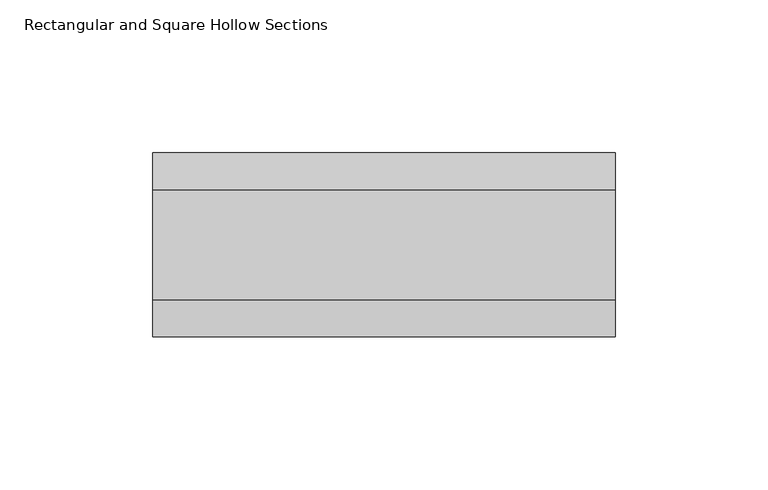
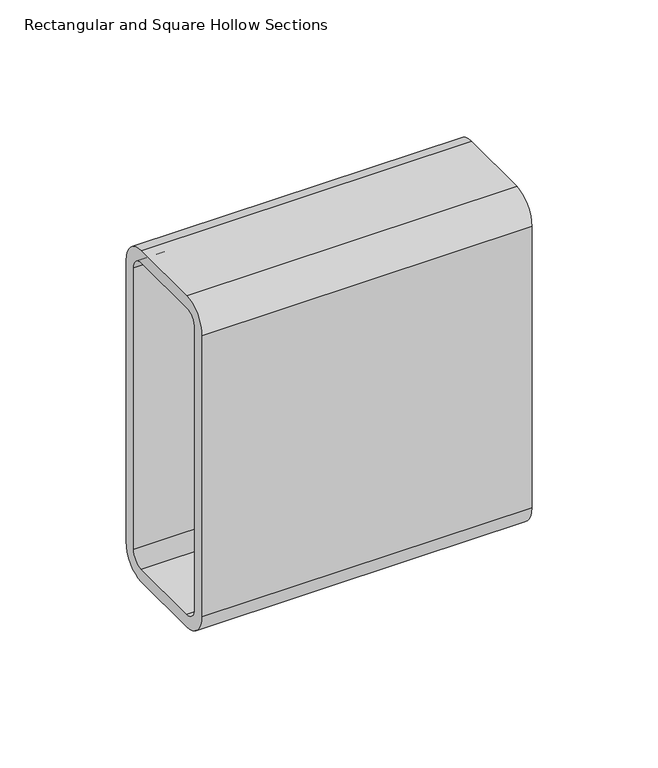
"""IFC4 building model written with IfcOpenShell, lengths in millimetres: beam geometry, Rectangular and Square Hollow Sections : TREC160x60x6."""

from ifc_helpers import new_model, si_unit, point, frame, frame_2d, origin, place, context, project, spatial, polyline, circle_curve, trimmed, segment, composite_curve, outline, extrude, source, transform, mapped, element, save


def rectangular_and_square_hollow_sections_abeee659(model_context):
    return source(origin(), model_context, "Body", "SweptSolid", [
        extrude(outline(composite_curve([segment(polyline([(30.0, 68.0), (30.0, -68.0)]), True, "CONTINUOUS"), segment(trimmed(circle_curve(frame_2d((18.0, -68.0)), 12.0), [point((30.0, -68.0))], [point((18.0, -80.0))], False, "CARTESIAN"), True, "CONTINUOUS"), segment(polyline([(18.0, -80.0), (-18.0, -80.0)]), True, "CONTINUOUS"), segment(trimmed(circle_curve(frame_2d((-18.0, -68.0)), 12.0), [point((-18.0, -80.0))], [point((-30.0, -68.0))], False, "CARTESIAN"), True, "CONTINUOUS"), segment(polyline([(-30.0, -68.0), (-30.0, 68.0)]), True, "CONTINUOUS"), segment(trimmed(circle_curve(frame_2d((-18.0, 68.0)), 12.0), [point((-30.0, 68.0))], [point((-18.0, 80.0))], False, "CARTESIAN"), True, "CONTINUOUS"), segment(polyline([(-18.0, 80.0), (18.0, 80.0)]), True, "CONTINUOUS"), segment(trimmed(circle_curve(frame_2d((18.0, 68.0)), 12.0), [point((18.0, 80.0))], [point((30.0, 68.0))], False, "CARTESIAN"), True, "CONTINUOUS")], self_intersect=False), holes=[composite_curve([segment(trimmed(circle_curve(frame_2d((-18.0, 68.0)), 6.0), [point((-18.0, 74.0))], [point((-24.0, 68.0))], True, "CARTESIAN"), True, "CONTINUOUS"), segment(polyline([(-24.0, 68.0), (-24.0, -68.0)]), True, "CONTINUOUS"), segment(trimmed(circle_curve(frame_2d((-18.0, -68.0)), 6.0), [point((-24.0, -68.0))], [point((-18.0, -74.0))], True, "CARTESIAN"), True, "CONTINUOUS"), segment(polyline([(-18.0, -74.0), (18.0, -74.0)]), True, "CONTINUOUS"), segment(trimmed(circle_curve(frame_2d((18.0, -68.0)), 6.0), [point((18.0, -74.0))], [point((24.0, -68.0))], True, "CARTESIAN"), True, "CONTINUOUS"), segment(polyline([(24.0, -68.0), (24.0, 68.0)]), True, "CONTINUOUS"), segment(trimmed(circle_curve(frame_2d((18.0, 68.0)), 6.0), [point((24.0, 68.0))], [point((18.0, 74.0))], True, "CARTESIAN"), True, "CONTINUOUS"), segment(polyline([(18.0, 74.0), (-18.0, 74.0)]), True, "CONTINUOUS")], self_intersect=False)]), frame((-75.5, 0.0, 0.0), z_axis=(1.0, 0.0, 0.0), x_axis=(0.0, 1.0, 0.0)), (0.0, 0.0, 1.0), 151.0),
    ])


if __name__ == "__main__":
    model = new_model("IFC4")
    model_context = context("Model", 3, world=origin())
    ifc_project = project(units=[si_unit("LENGTHUNIT", "METRE", prefix="MILLI")], contexts=[model_context])
    site = spatial("IfcSite", under=ifc_project)
    building = spatial("IfcBuilding", under=site)
    placement = place(None, origin())
    rectangular_and_square_hollow_sections_shape = rectangular_and_square_hollow_sections_abeee659(model_context)
    element("IfcBeam", 1, ObjectType="Rectangular and Square Hollow Sections : TREC160x60x6", at=placement, inside=building, context=model_context, shape_type="MappedRepresentation", body=[
        mapped(rectangular_and_square_hollow_sections_shape, transform((0.0, 0.0, 0.0), x_axis=(1.0, 0.0, 0.0), y_axis=(0.0, 1.0, 0.0), z_axis=(0.0, 0.0, 1.0))),
    ])
    save(model, "model.ifc")
